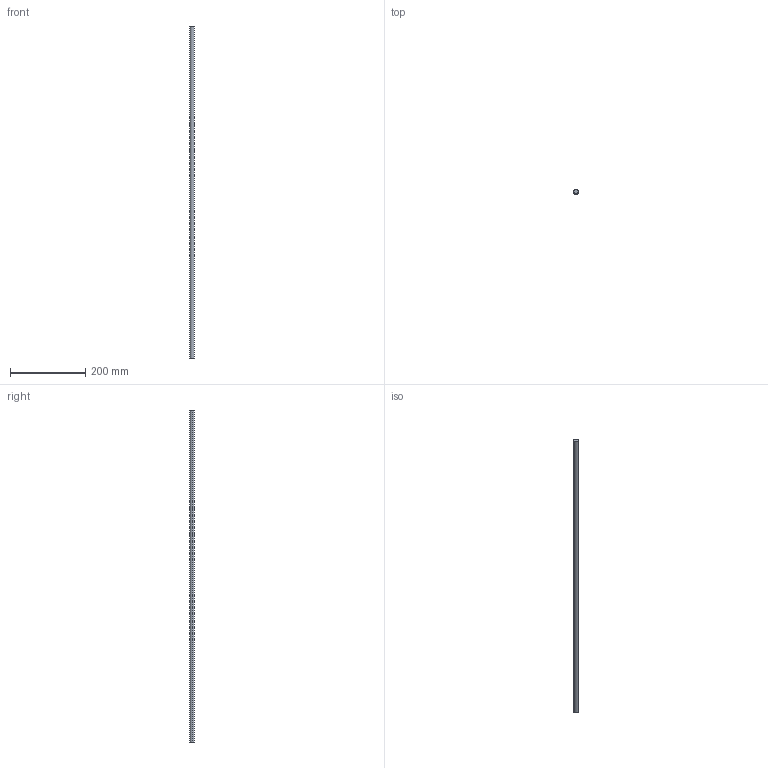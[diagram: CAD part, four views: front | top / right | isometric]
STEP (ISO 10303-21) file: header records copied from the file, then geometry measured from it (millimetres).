
FILE_DESCRIPTION (( 'STEP AP214' ), '1' );
FILE_NAME ('Innenschub H182 - S18_S19 - 1000.step', '2010-09-07T14:56:04', ( 'grass' ), ( '' ), 'SwSTEP 2.0', 'SolidWorks 2010', '' );
FILE_SCHEMA (( 'AUTOMOTIVE_DESIGN' ));
Length unit declared in the file: millimetre
Products named in the file (1): Innenschub H182 - S18_S19 - 1000
Bounding box: 12 x 12 x 883 mm (x, y, z)
Volume: 99864.9 mm3; surface area: 33514.5 mm2
Topology: 1 solids, 1 shells, 4 faces, 6 edges, 4 vertices
Faces by surface type: cylinder 2, plane 2
Entity records: 128 total; most frequent: DIRECTION 20, CARTESIAN_POINT 15, ORIENTED_EDGE 12, AXIS2_PLACEMENT_3D 9, EDGE_CURVE 6, VERTEX_POINT 4, CIRCLE 4, FACE_OUTER_BOUND 4
